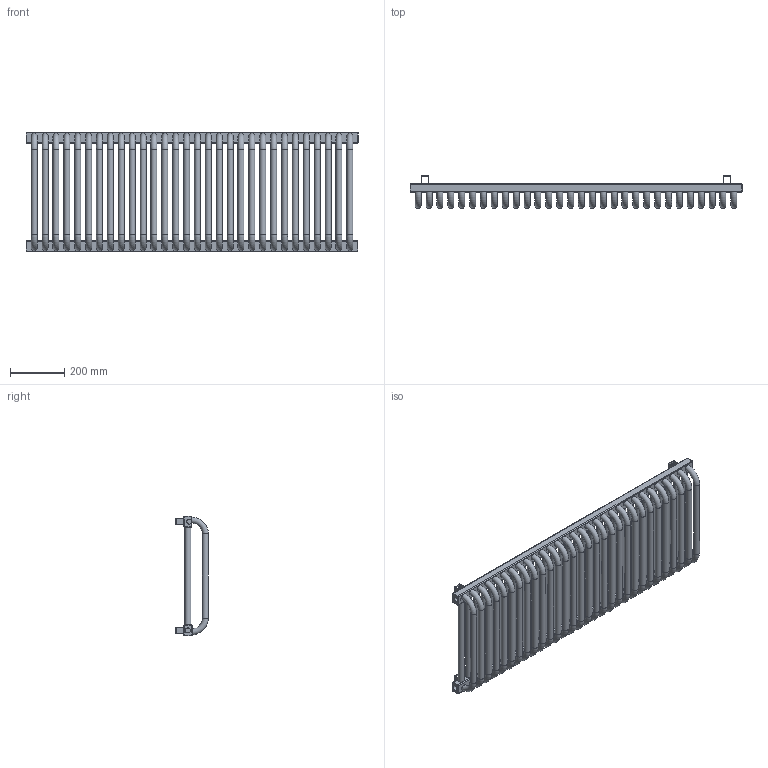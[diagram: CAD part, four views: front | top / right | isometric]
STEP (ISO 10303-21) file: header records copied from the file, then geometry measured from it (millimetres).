
FILE_DESCRIPTION((''),'2;1');
FILE_NAME('Z:\R\G\P\RGPH03 - Grzejnik Dobus\Work\Inventor\Marketing\STEP\DF-44-12-L6.stp','2012-07-25T11:22:55',('PioRo'),(''),'Autodesk Inventor 2012','Autodesk Inventor 2012','');
FILE_SCHEMA(('CONFIG_CONTROL_DESIGN'));
Length unit declared in the file: millimetre
Products named in the file (1): Część1
Bounding box: 1220 x 120 x 440 mm (x, y, z)
Volume: 12320930.1 mm3; surface area: 2017595.7 mm2
Topology: 5 solids, 5 shells, 270 faces, 676 edges, 420 vertices
Faces by surface type: cylinder 115, plane 79, torus 76
Full cylindrical faces by diameter (mm): 0.1 x4, 18.631 x3, 22 x60
Entity records: 11714 total; most frequent: CARTESIAN_POINT 5147, DIRECTION 1275, ORIENTED_EDGE 1096, EDGE_CURVE 548, EDGE_LOOP 527, AXIS2_PLACEMENT_3D 517, VERTEX_POINT 419, FACE_OUTER_BOUND 270
